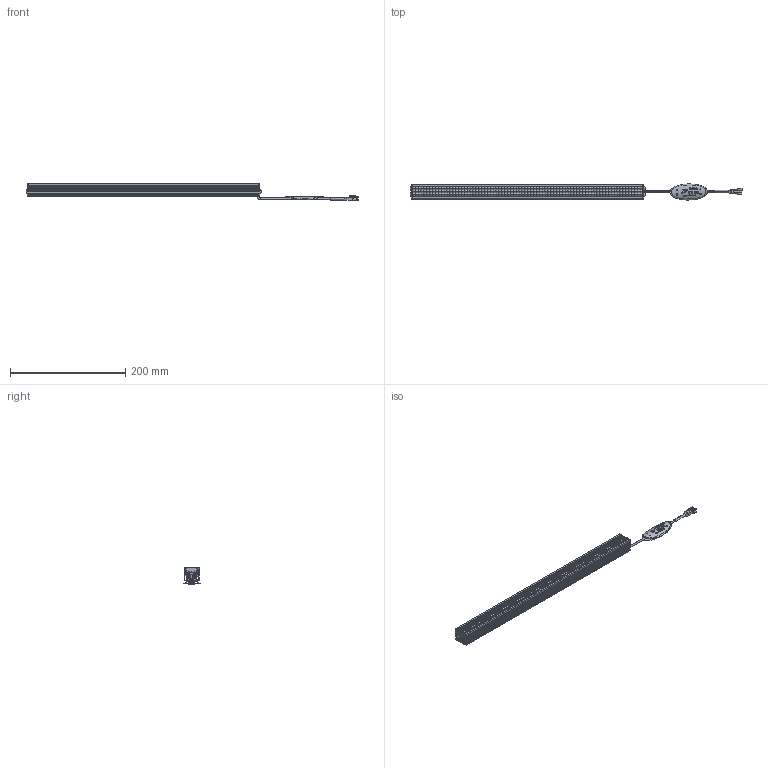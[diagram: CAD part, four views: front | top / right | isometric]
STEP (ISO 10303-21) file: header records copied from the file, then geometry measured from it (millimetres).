
FILE_DESCRIPTION(('STEP AP214'),'1');
FILE_NAME('VBA-40015_DRAWING_3D.step','2023-09-14T01:03:28',(' '),(' '),'Spatial InterOp 3D',' ',' ');
FILE_SCHEMA(('AUTOMOTIVE_DESIGN { 1 0 10303 214 1 1 1 1 }'));
Length unit declared in the file: millimetre
Products named in the file (7): BASE; SIDE PLATE; MXB8146; 3P; CABEL TAG (VS).stp; LED LENS
Assembly tree (17 placements, depth 2):
  (unnamed)
    BASE
    SIDE PLATE  x2
    MXB8146  x4
    3P
    CABEL TAG (VS).stp
    LED LENS  x8
Bounding box: 576 x 27.99 x 30.5 mm (x, y, z)
Volume: 120980.5 mm3; surface area: 124334.7 mm2
Topology: 18 solids, 18 shells, 1871 faces, 5714 edges, 3935 vertices
Faces by surface type: plane 799, cylinder 572, sphere 480, torus 14, bspline 6
Entity records: 37414 total; most frequent: CARTESIAN_POINT 8813, ORIENTED_EDGE 4924, DIRECTION 4448, EDGE_CURVE 2462, VERTEX_POINT 1760, AXIS2_PLACEMENT_3D 1561, LINE 1326, VECTOR 1326
